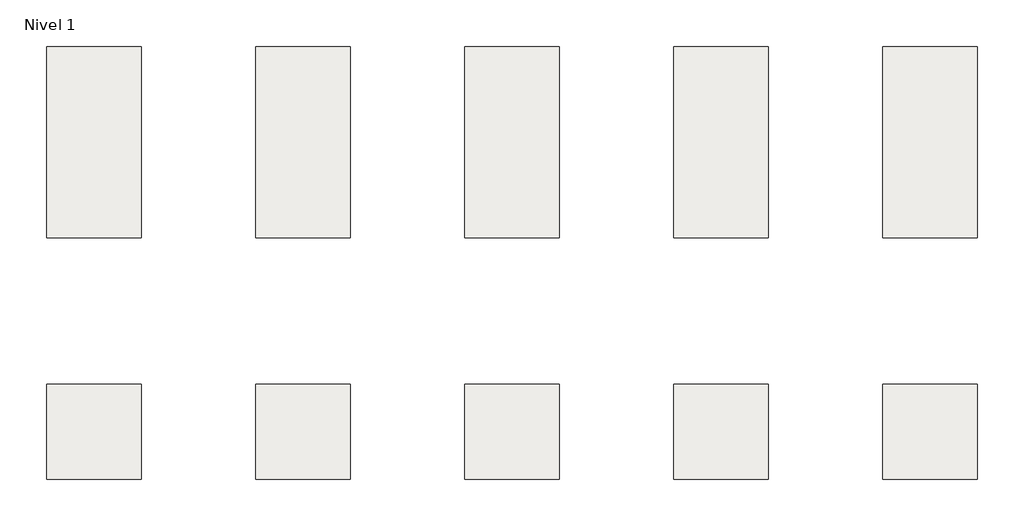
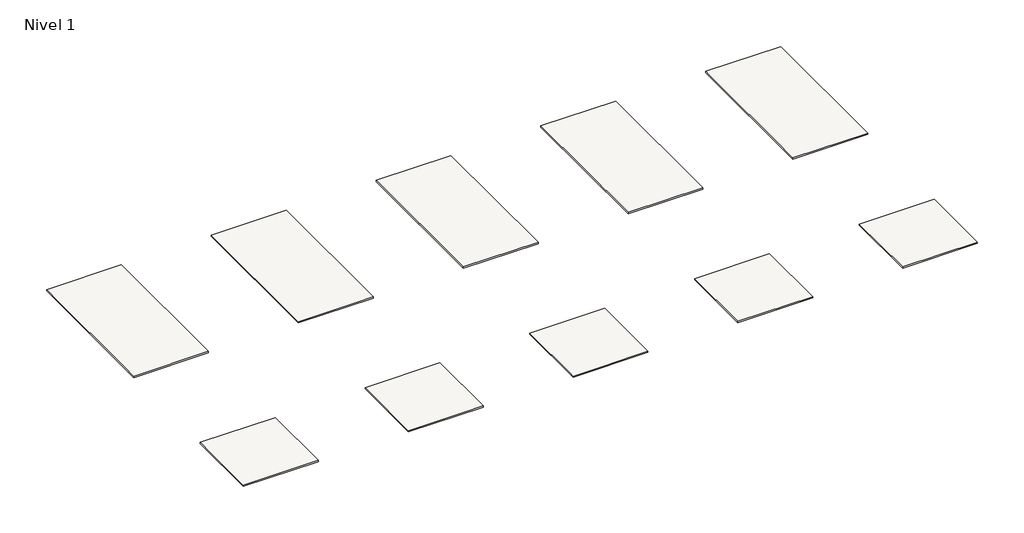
# One storey: 10 slabs.
"""IFC4 building model written with IfcOpenShell, lengths in millimetres."""

from ifc_helpers import new_model, si_unit, frame, origin, place, context, project, spatial, polyline, outline, extrude, element, save

model = new_model("IFC4")

# Units and contexts
model_context = context("Model", 3, world=origin())
ifc_project = project(units=[si_unit("LENGTHUNIT", "METRE", prefix="MILLI")], contexts=[model_context])

# Site, building, storey
site = spatial("IfcSite", under=ifc_project)
building = spatial("IfcBuilding", under=site)
storey = spatial("IfcBuildingStorey", under=building, Name="Nivel 1", Elevation=0.0)

# Slabs
placement = place(None, origin())
element("IfcSlab", 1, ObjectType="Marmorea Estatua. 59X119 Pulido", at=placement, inside=storey, context=model_context, shape_type="SweptSolid", body=[
    extrude(outline(polyline([(0.0, 1190.0), (590.0, 1190.0), (590.0, 0.0), (0.0, 0.0), (0.0, 1190.0)])), frame((0.0, 0.0, -11.3), z_axis=(0.0, 0.0, 1.0), x_axis=(1.0, 0.0, 0.0)), (0.0, 0.0, 1.0), 11.3),
])
element("IfcSlab", 2, ObjectType="Marmorea Pulpis 59X119 Pulido", at=placement, inside=storey, context=model_context, shape_type="SweptSolid", body=[
    extrude(outline(polyline([(1300.0, 1190.0), (1890.0, 1190.0), (1890.0, 0.0), (1300.0, 0.0), (1300.0, 1190.0)])), frame((0.0, 0.0, -11.3), z_axis=(0.0, 0.0, 1.0), x_axis=(1.0, 0.0, 0.0)), (0.0, 0.0, 1.0), 11.3),
])
element("IfcSlab", 3, ObjectType="Marmorea Marquina 59X119 Pulido", at=placement, inside=storey, context=model_context, shape_type="SweptSolid", body=[
    extrude(outline(polyline([(2600.0, 1190.0), (3190.0, 1190.0), (3190.0, 0.0), (2600.0, 0.0), (2600.0, 1190.0)])), frame((0.0, 0.0, -11.3), z_axis=(0.0, 0.0, 1.0), x_axis=(1.0, 0.0, 0.0)), (0.0, 0.0, 1.0), 11.3),
])
element("IfcSlab", 4, ObjectType="Marmorea Carrara 59X119 Pulido", at=placement, inside=storey, context=model_context, shape_type="SweptSolid", body=[
    extrude(outline(polyline([(3900.0, 1190.0), (4490.0, 1190.0), (4490.0, 0.0), (3900.0, 0.0), (3900.0, 1190.0)])), frame((0.0, 0.0, -11.3), z_axis=(0.0, 0.0, 1.0), x_axis=(1.0, 0.0, 0.0)), (0.0, 0.0, 1.0), 11.3),
])
element("IfcSlab", 5, ObjectType="Marmorea Hermes 59X119 Pulido", at=placement, inside=storey, context=model_context, shape_type="SweptSolid", body=[
    extrude(outline(polyline([(5200.0, 1190.0), (5790.0, 1190.0), (5790.0, 0.0), (5200.0, 0.0), (5200.0, 1190.0)])), frame((0.0, 0.0, -11.3), z_axis=(0.0, 0.0, 1.0), x_axis=(1.0, 0.0, 0.0)), (0.0, 0.0, 1.0), 11.3),
])
element("IfcSlab", 6, ObjectType="Marmorea Carrara 59X59 Pulido", at=placement, inside=storey, context=model_context, shape_type="SweptSolid", body=[
    extrude(outline(polyline([(3900.0, -910.0), (4490.0, -910.0), (4490.0, -1500.0), (3900.0, -1500.0), (3900.0, -910.0)])), frame((0.0, 0.0, -10.0), z_axis=(0.0, 0.0, 1.0), x_axis=(1.0, 0.0, 0.0)), (0.0, 0.0, 1.0), 10.0),
])
element("IfcSlab", 7, ObjectType="Marmorea Hermes 59X59 Pulido", at=placement, inside=storey, context=model_context, shape_type="SweptSolid", body=[
    extrude(outline(polyline([(5200.0, -910.0), (5790.0, -910.0), (5790.0, -1500.0), (5200.0, -1500.0), (5200.0, -910.0)])), frame((0.0, 0.0, -10.0), z_axis=(0.0, 0.0, 1.0), x_axis=(1.0, 0.0, 0.0)), (0.0, 0.0, 1.0), 10.0),
])
element("IfcSlab", 8, ObjectType="Marmorea Estatua. 59X59 Pulido", at=placement, inside=storey, context=model_context, shape_type="SweptSolid", body=[
    extrude(outline(polyline([(0.0, -910.0), (590.0, -910.0), (590.0, -1500.0), (0.0, -1500.0), (0.0, -910.0)])), frame((0.0, 0.0, -10.0), z_axis=(0.0, 0.0, 1.0), x_axis=(1.0, 0.0, 0.0)), (0.0, 0.0, 1.0), 10.0),
])
element("IfcSlab", 9, ObjectType="Marmorea Pulpis 59X59 Pulido", at=placement, inside=storey, context=model_context, shape_type="SweptSolid", body=[
    extrude(outline(polyline([(1300.0, -910.0), (1890.0, -910.0), (1890.0, -1500.0), (1300.0, -1500.0), (1300.0, -910.0)])), frame((0.0, 0.0, -10.0), z_axis=(0.0, 0.0, 1.0), x_axis=(1.0, 0.0, 0.0)), (0.0, 0.0, 1.0), 10.0),
])
element("IfcSlab", 10, ObjectType="Marmorea Marquina 59X59 Pulido", at=placement, inside=storey, context=model_context, shape_type="SweptSolid", body=[
    extrude(outline(polyline([(2600.0, -910.0), (3190.0, -910.0), (3190.0, -1500.0), (2600.0, -1500.0), (2600.0, -910.0)])), frame((0.0, 0.0, -10.0), z_axis=(0.0, 0.0, 1.0), x_axis=(1.0, 0.0, 0.0)), (0.0, 0.0, 1.0), 10.0),
])

save(model, "model.ifc")
